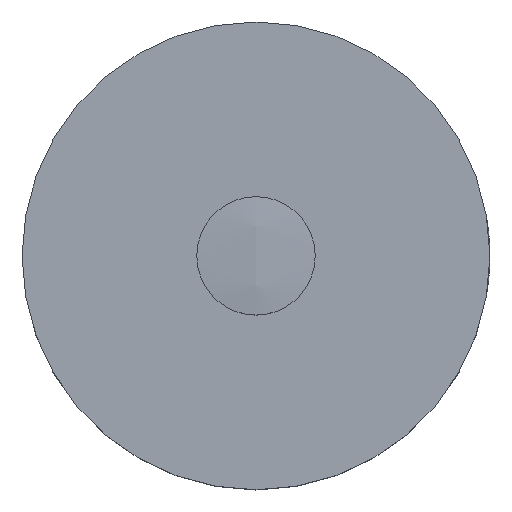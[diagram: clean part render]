
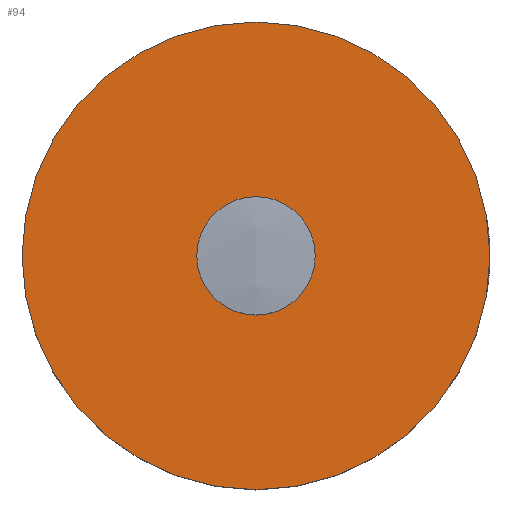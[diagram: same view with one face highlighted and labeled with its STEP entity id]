
A CAD part, top view. The second image highlights one B-rep face of the part: STEP entity #94.
In plain terms, the highlighted planar face has unit normal (0, 0, 1).
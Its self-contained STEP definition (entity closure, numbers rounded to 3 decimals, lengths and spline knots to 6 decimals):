
#94=ADVANCED_FACE('0:60',(#189,#190),#191,.T.);
#189=FACE_OUTER_BOUND('',#278,.T.);
#190=FACE_BOUND('',#279,.T.);
#191=PLANE('',#280);
#278=EDGE_LOOP('',(#466,#467));
#279=EDGE_LOOP('',(#468,#469));
#280=AXIS2_PLACEMENT_3D('',#470,#471,#472);
#466=ORIENTED_EDGE('',*,*,#541,.F.);
#467=ORIENTED_EDGE('',*,*,#512,.F.);
#468=ORIENTED_EDGE('',*,*,#537,.T.);
#469=ORIENTED_EDGE('',*,*,#519,.T.);
#470=CARTESIAN_POINT('',(0.,-0.00405,0.0082));
#471=DIRECTION('',(0.,0.,1.0));
#472=DIRECTION('',(1.0,0.,0.0));
#512=EDGE_CURVE('',#600,#603,#604,.T.);
#519=EDGE_CURVE('',#610,#614,#616,.T.);
#537=EDGE_CURVE('0:84',#614,#610,#642,.T.);
#541=EDGE_CURVE('0:87',#603,#600,#646,.T.);
#600=VERTEX_POINT('',#717);
#603=VERTEX_POINT('NONE',#721);
#604=CIRCLE('',#722,0.016);
#610=VERTEX_POINT('',#729);
#614=VERTEX_POINT('',#734);
#616=CIRCLE('',#737,0.00405);
#642=CIRCLE('',#797,0.00405);
#646=CIRCLE('',#801,0.016);
#717=CARTESIAN_POINT('',(0.,-0.016,0.0082));
#721=CARTESIAN_POINT('',(0.,0.016,0.0082));
#722=AXIS2_PLACEMENT_3D('',#851,#852,#853);
#729=CARTESIAN_POINT('',(0.,-0.00405,0.0082));
#734=CARTESIAN_POINT('',(0.,0.00405,0.0082));
#737=AXIS2_PLACEMENT_3D('',#863,#864,#865);
#797=AXIS2_PLACEMENT_3D('',#888,#889,#890);
#801=AXIS2_PLACEMENT_3D('',#897,#898,#899);
#851=CARTESIAN_POINT('',(0.,0.,0.0082));
#852=DIRECTION('',(0.,0.,-1.0));
#853=DIRECTION('',(0.,-1.0,0.));
#863=CARTESIAN_POINT('',(0.,0.,0.0082));
#864=DIRECTION('',(0.,0.,-1.0));
#865=DIRECTION('',(0.,-1.0,0.));
#888=CARTESIAN_POINT('',(0.,0.,0.0082));
#889=DIRECTION('',(0.,0.,-1.0));
#890=DIRECTION('',(0.,-1.0,0.));
#897=CARTESIAN_POINT('',(0.,0.,0.0082));
#898=DIRECTION('',(0.,0.,-1.0));
#899=DIRECTION('',(0.,-1.0,0.));
